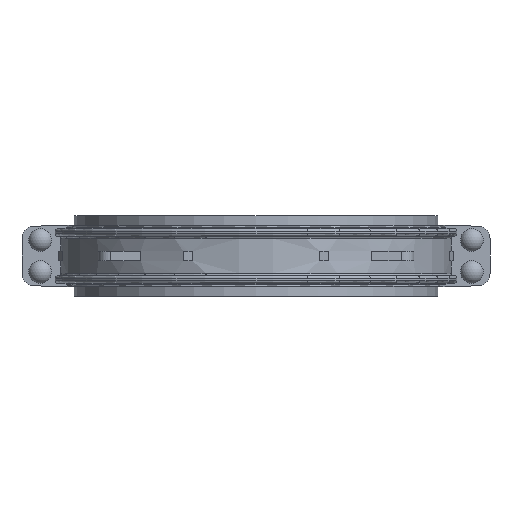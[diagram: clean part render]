
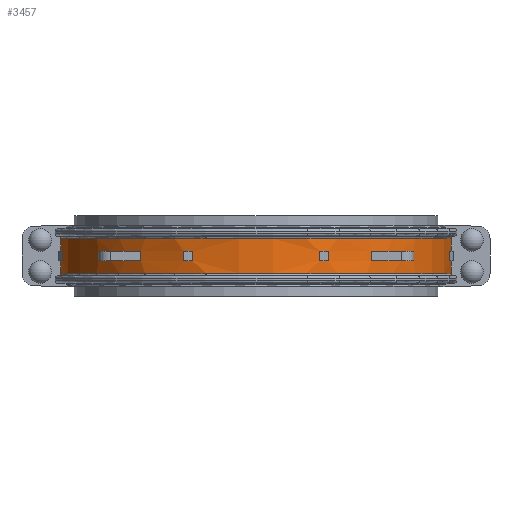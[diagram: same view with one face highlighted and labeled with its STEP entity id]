
A CAD part, front view. The second image highlights one B-rep face of the part: STEP entity #3457.
In plain terms, the highlighted cylindrical face has radius 549.275 mm (diameter 1098.55 mm), a partial arc.
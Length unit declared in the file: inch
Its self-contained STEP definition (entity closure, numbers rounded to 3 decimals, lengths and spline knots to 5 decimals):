
#135=CYLINDRICAL_SURFACE('',#3801,21.625);
#181=FACE_BOUND('',#501,.T.);
#182=FACE_BOUND('',#502,.T.);
#183=FACE_BOUND('',#503,.T.);
#184=FACE_BOUND('',#504,.T.);
#295=FACE_OUTER_BOUND('',#500,.T.);
#500=EDGE_LOOP('',(#2554,#2555,#2556,#2557,#2558,#2559,#2560,#2561,#2562,
#2563,#2564,#2565));
#501=EDGE_LOOP('',(#2566,#2567,#2568,#2569));
#502=EDGE_LOOP('',(#2570,#2571,#2572,#2573));
#503=EDGE_LOOP('',(#2574,#2575,#2576,#2577));
#504=EDGE_LOOP('',(#2578,#2579,#2580,#2581));
#722=LINE('',#5397,#979);
#723=LINE('',#5399,#980);
#726=LINE('',#5404,#983);
#727=LINE('',#5406,#984);
#748=LINE('',#5440,#1005);
#749=LINE('',#5442,#1006);
#752=LINE('',#5447,#1009);
#753=LINE('',#5449,#1010);
#755=LINE('',#5452,#1012);
#756=LINE('',#5454,#1013);
#774=LINE('',#5650,#1031);
#775=LINE('',#5653,#1032);
#776=LINE('',#5655,#1033);
#777=LINE('',#5658,#1034);
#979=VECTOR('',#4401,0.3937);
#980=VECTOR('',#4404,0.3937);
#983=VECTOR('',#4411,0.3937);
#984=VECTOR('',#4414,0.3937);
#1005=VECTOR('',#4461,0.3937);
#1006=VECTOR('',#4464,0.3937);
#1009=VECTOR('',#4471,0.3937);
#1010=VECTOR('',#4474,0.3937);
#1012=VECTOR('',#4478,0.3937);
#1013=VECTOR('',#4481,0.3937);
#1031=VECTOR('',#4513,0.3937);
#1032=VECTOR('',#4516,0.3937);
#1033=VECTOR('',#4517,0.3937);
#1034=VECTOR('',#4520,0.3937);
#1172=CIRCLE('',#3718,21.625);
#1173=CIRCLE('',#3720,21.625);
#1176=CIRCLE('',#3724,21.625);
#1177=CIRCLE('',#3726,21.625);
#1178=CIRCLE('',#3728,21.625);
#1181=CIRCLE('',#3732,21.625);
#1183=CIRCLE('',#3736,21.625);
#1184=CIRCLE('',#3738,21.625);
#1187=CIRCLE('',#3742,21.625);
#1188=CIRCLE('',#3744,21.625);
#1189=CIRCLE('',#3746,21.625);
#1192=CIRCLE('',#3750,21.625);
#1207=CIRCLE('',#3802,21.625);
#1208=CIRCLE('',#3803,21.625);
#1386=VERTEX_POINT('',#5231);
#1387=VERTEX_POINT('',#5232);
#1389=VERTEX_POINT('',#5238);
#1390=VERTEX_POINT('',#5239);
#1394=VERTEX_POINT('',#5249);
#1395=VERTEX_POINT('',#5250);
#1397=VERTEX_POINT('',#5256);
#1398=VERTEX_POINT('',#5257);
#1400=VERTEX_POINT('',#5263);
#1401=VERTEX_POINT('',#5264);
#1406=VERTEX_POINT('',#5275);
#1407=VERTEX_POINT('',#5277);
#1411=VERTEX_POINT('',#5288);
#1412=VERTEX_POINT('',#5289);
#1414=VERTEX_POINT('',#5295);
#1415=VERTEX_POINT('',#5296);
#1419=VERTEX_POINT('',#5306);
#1420=VERTEX_POINT('',#5307);
#1422=VERTEX_POINT('',#5313);
#1423=VERTEX_POINT('',#5314);
#1425=VERTEX_POINT('',#5320);
#1426=VERTEX_POINT('',#5321);
#1430=VERTEX_POINT('',#5331);
#1432=VERTEX_POINT('',#5334);
#1485=VERTEX_POINT('',#5649);
#1486=VERTEX_POINT('',#5651);
#1487=VERTEX_POINT('',#5654);
#1488=VERTEX_POINT('',#5656);
#1746=EDGE_CURVE('',#1386,#1387,#1172,.T.);
#1749=EDGE_CURVE('',#1389,#1390,#1173,.T.);
#1754=EDGE_CURVE('',#1394,#1395,#1176,.T.);
#1757=EDGE_CURVE('',#1397,#1398,#1177,.T.);
#1760=EDGE_CURVE('',#1400,#1401,#1178,.T.);
#1767=EDGE_CURVE('',#1406,#1407,#1181,.T.);
#1771=EDGE_CURVE('',#1411,#1412,#1183,.T.);
#1774=EDGE_CURVE('',#1414,#1415,#1184,.T.);
#1779=EDGE_CURVE('',#1419,#1420,#1187,.T.);
#1782=EDGE_CURVE('',#1422,#1423,#1188,.T.);
#1785=EDGE_CURVE('',#1425,#1426,#1189,.T.);
#1791=EDGE_CURVE('',#1432,#1430,#1192,.T.);
#1820=EDGE_CURVE('',#1423,#1397,#722,.T.);
#1821=EDGE_CURVE('',#1401,#1425,#723,.T.);
#1824=EDGE_CURVE('',#1426,#1400,#726,.T.);
#1825=EDGE_CURVE('',#1407,#1432,#727,.T.);
#1846=EDGE_CURVE('',#1412,#1386,#748,.T.);
#1847=EDGE_CURVE('',#1390,#1414,#749,.T.);
#1850=EDGE_CURVE('',#1415,#1389,#752,.T.);
#1851=EDGE_CURVE('',#1395,#1419,#753,.T.);
#1853=EDGE_CURVE('',#1420,#1394,#755,.T.);
#1854=EDGE_CURVE('',#1398,#1422,#756,.T.);
#1888=EDGE_CURVE('',#1430,#1485,#774,.T.);
#1889=EDGE_CURVE('',#1486,#1485,#1207,.T.);
#1890=EDGE_CURVE('',#1486,#1411,#775,.T.);
#1891=EDGE_CURVE('',#1387,#1487,#776,.T.);
#1892=EDGE_CURVE('',#1487,#1488,#1208,.T.);
#1893=EDGE_CURVE('',#1488,#1406,#777,.T.);
#2554=ORIENTED_EDGE('',*,*,#1825,.T.);
#2555=ORIENTED_EDGE('',*,*,#1791,.T.);
#2556=ORIENTED_EDGE('',*,*,#1888,.T.);
#2557=ORIENTED_EDGE('',*,*,#1889,.F.);
#2558=ORIENTED_EDGE('',*,*,#1890,.T.);
#2559=ORIENTED_EDGE('',*,*,#1771,.T.);
#2560=ORIENTED_EDGE('',*,*,#1846,.T.);
#2561=ORIENTED_EDGE('',*,*,#1746,.T.);
#2562=ORIENTED_EDGE('',*,*,#1891,.T.);
#2563=ORIENTED_EDGE('',*,*,#1892,.T.);
#2564=ORIENTED_EDGE('',*,*,#1893,.T.);
#2565=ORIENTED_EDGE('',*,*,#1767,.T.);
#2566=ORIENTED_EDGE('',*,*,#1760,.T.);
#2567=ORIENTED_EDGE('',*,*,#1821,.T.);
#2568=ORIENTED_EDGE('',*,*,#1785,.T.);
#2569=ORIENTED_EDGE('',*,*,#1824,.T.);
#2570=ORIENTED_EDGE('',*,*,#1757,.T.);
#2571=ORIENTED_EDGE('',*,*,#1854,.T.);
#2572=ORIENTED_EDGE('',*,*,#1782,.T.);
#2573=ORIENTED_EDGE('',*,*,#1820,.T.);
#2574=ORIENTED_EDGE('',*,*,#1754,.T.);
#2575=ORIENTED_EDGE('',*,*,#1851,.T.);
#2576=ORIENTED_EDGE('',*,*,#1779,.T.);
#2577=ORIENTED_EDGE('',*,*,#1853,.T.);
#2578=ORIENTED_EDGE('',*,*,#1749,.T.);
#2579=ORIENTED_EDGE('',*,*,#1847,.T.);
#2580=ORIENTED_EDGE('',*,*,#1774,.T.);
#2581=ORIENTED_EDGE('',*,*,#1850,.T.);
#3457=ADVANCED_FACE('',(#295,#181,#182,#183,#184),#135,.T.);
#3718=AXIS2_PLACEMENT_3D('',#5233,#4250,#4251);
#3720=AXIS2_PLACEMENT_3D('',#5240,#4256,#4257);
#3724=AXIS2_PLACEMENT_3D('',#5251,#4266,#4267);
#3726=AXIS2_PLACEMENT_3D('',#5258,#4272,#4273);
#3728=AXIS2_PLACEMENT_3D('',#5265,#4278,#4279);
#3732=AXIS2_PLACEMENT_3D('',#5279,#4290,#4291);
#3736=AXIS2_PLACEMENT_3D('',#5290,#4300,#4301);
#3738=AXIS2_PLACEMENT_3D('',#5297,#4306,#4307);
#3742=AXIS2_PLACEMENT_3D('',#5308,#4316,#4317);
#3744=AXIS2_PLACEMENT_3D('',#5315,#4322,#4323);
#3746=AXIS2_PLACEMENT_3D('',#5322,#4328,#4329);
#3750=AXIS2_PLACEMENT_3D('',#5335,#4339,#4340);
#3801=AXIS2_PLACEMENT_3D('',#5648,#4511,#4512);
#3802=AXIS2_PLACEMENT_3D('',#5652,#4514,#4515);
#3803=AXIS2_PLACEMENT_3D('',#5657,#4518,#4519);
#4250=DIRECTION('center_axis',(0.,0.,1.));
#4251=DIRECTION('ref_axis',(0.,1.,0.));
#4256=DIRECTION('center_axis',(0.,0.,1.));
#4257=DIRECTION('ref_axis',(0.,1.,0.));
#4266=DIRECTION('center_axis',(0.,0.,1.));
#4267=DIRECTION('ref_axis',(0.,1.,0.));
#4272=DIRECTION('center_axis',(0.,0.,1.));
#4273=DIRECTION('ref_axis',(0.,1.,0.));
#4278=DIRECTION('center_axis',(0.,0.,1.));
#4279=DIRECTION('ref_axis',(0.,1.,0.));
#4290=DIRECTION('center_axis',(0.,0.,1.));
#4291=DIRECTION('ref_axis',(0.,1.,0.));
#4300=DIRECTION('center_axis',(0.,0.,-1.));
#4301=DIRECTION('ref_axis',(0.,1.,0.));
#4306=DIRECTION('center_axis',(0.,0.,-1.));
#4307=DIRECTION('ref_axis',(0.,1.,0.));
#4316=DIRECTION('center_axis',(0.,0.,-1.));
#4317=DIRECTION('ref_axis',(0.,1.,0.));
#4322=DIRECTION('center_axis',(0.,0.,-1.));
#4323=DIRECTION('ref_axis',(0.,1.,0.));
#4328=DIRECTION('center_axis',(0.,0.,-1.));
#4329=DIRECTION('ref_axis',(0.,1.,0.));
#4339=DIRECTION('center_axis',(0.,0.,-1.));
#4340=DIRECTION('ref_axis',(0.,1.,0.));
#4401=DIRECTION('',(0.,0.,1.));
#4404=DIRECTION('',(0.,0.,-1.));
#4411=DIRECTION('',(0.,0.,1.));
#4414=DIRECTION('',(0.,0.,-1.));
#4461=DIRECTION('',(0.,0.,1.));
#4464=DIRECTION('',(0.,0.,-1.));
#4471=DIRECTION('',(0.,0.,1.));
#4474=DIRECTION('',(0.,0.,-1.));
#4478=DIRECTION('',(0.,0.,1.));
#4481=DIRECTION('',(0.,0.,-1.));
#4511=DIRECTION('center_axis',(0.,0.,-1.));
#4512=DIRECTION('ref_axis',(0.,1.,0.));
#4513=DIRECTION('',(0.,0.,-1.));
#4514=DIRECTION('center_axis',(0.,0.,-1.));
#4515=DIRECTION('ref_axis',(0.,1.,0.));
#4516=DIRECTION('',(0.,0.,1.));
#4517=DIRECTION('',(0.,0.,1.));
#4518=DIRECTION('center_axis',(0.,0.,-1.));
#4519=DIRECTION('ref_axis',(0.,1.,0.));
#4520=DIRECTION('',(0.,0.,-1.));
#5231=CARTESIAN_POINT('',(-21.31766,3.63289,0.5));
#5232=CARTESIAN_POINT('',(-21.48001,2.5,0.5));
#5233=CARTESIAN_POINT('Origin',(0.,0.,0.5));
#5238=CARTESIAN_POINT('',(-12.70396,17.5,0.5));
#5239=CARTESIAN_POINT('',(-17.38,12.86764,0.5));
#5240=CARTESIAN_POINT('Origin',(0.,0.,0.5));
#5249=CARTESIAN_POINT('',(-7.00207,20.46,0.5));
#5250=CARTESIAN_POINT('',(-7.98,20.09876,0.5));
#5251=CARTESIAN_POINT('Origin',(0.,0.,0.5));
#5256=CARTESIAN_POINT('',(7.98,20.09876,0.5));
#5257=CARTESIAN_POINT('',(7.00207,20.46,0.5));
#5258=CARTESIAN_POINT('Origin',(0.,0.,0.5));
#5263=CARTESIAN_POINT('',(17.38,12.86764,0.5));
#5264=CARTESIAN_POINT('',(12.70396,17.5,0.5));
#5265=CARTESIAN_POINT('Origin',(0.,0.,0.5));
#5275=CARTESIAN_POINT('',(21.48001,2.5,0.5));
#5277=CARTESIAN_POINT('',(21.31766,3.63289,0.5));
#5279=CARTESIAN_POINT('Origin',(0.,0.,0.5));
#5288=CARTESIAN_POINT('',(-21.48001,2.5,-0.5));
#5289=CARTESIAN_POINT('',(-21.31766,3.63289,-0.5));
#5290=CARTESIAN_POINT('Origin',(0.,0.,-0.5));
#5295=CARTESIAN_POINT('',(-17.38,12.86764,-0.5));
#5296=CARTESIAN_POINT('',(-12.70396,17.5,-0.5));
#5297=CARTESIAN_POINT('Origin',(0.,0.,-0.5));
#5306=CARTESIAN_POINT('',(-7.98,20.09876,-0.5));
#5307=CARTESIAN_POINT('',(-7.00207,20.46,-0.5));
#5308=CARTESIAN_POINT('Origin',(0.,0.,-0.5));
#5313=CARTESIAN_POINT('',(7.00207,20.46,-0.5));
#5314=CARTESIAN_POINT('',(7.98,20.09876,-0.5));
#5315=CARTESIAN_POINT('Origin',(0.,0.,-0.5));
#5320=CARTESIAN_POINT('',(12.70396,17.5,-0.5));
#5321=CARTESIAN_POINT('',(17.38,12.86764,-0.5));
#5322=CARTESIAN_POINT('Origin',(0.,0.,-0.5));
#5331=CARTESIAN_POINT('',(21.48001,2.5,-0.5));
#5334=CARTESIAN_POINT('',(21.31766,3.63289,-0.5));
#5335=CARTESIAN_POINT('Origin',(0.,0.,-0.5));
#5397=CARTESIAN_POINT('',(7.98,20.09876,-0.96344));
#5399=CARTESIAN_POINT('',(12.70396,17.5,-0.96344));
#5404=CARTESIAN_POINT('',(17.38,12.86764,-0.96344));
#5406=CARTESIAN_POINT('',(21.31766,3.63289,-0.96344));
#5440=CARTESIAN_POINT('',(-21.31766,3.63289,-0.96344));
#5442=CARTESIAN_POINT('',(-17.38,12.86764,-0.96344));
#5447=CARTESIAN_POINT('',(-12.70396,17.5,-0.96344));
#5449=CARTESIAN_POINT('',(-7.98,20.09876,-0.96344));
#5452=CARTESIAN_POINT('',(-7.00207,20.46,-0.96344));
#5454=CARTESIAN_POINT('',(7.00207,20.46,-0.96344));
#5648=CARTESIAN_POINT('Origin',(0.,0.,-0.96344));
#5649=CARTESIAN_POINT('',(21.48001,2.5,-1.92688));
#5650=CARTESIAN_POINT('',(21.48001,2.5,-0.96344));
#5651=CARTESIAN_POINT('',(-21.48001,2.5,-1.92688));
#5652=CARTESIAN_POINT('Origin',(0.,0.,-1.92688));
#5653=CARTESIAN_POINT('',(-21.48001,2.5,-0.96344));
#5654=CARTESIAN_POINT('',(-21.48001,2.5,1.92688));
#5655=CARTESIAN_POINT('',(-21.48001,2.5,-0.96344));
#5656=CARTESIAN_POINT('',(21.48001,2.5,1.92688));
#5657=CARTESIAN_POINT('Origin',(0.,0.,1.92688));
#5658=CARTESIAN_POINT('',(21.48001,2.5,-0.96344));
